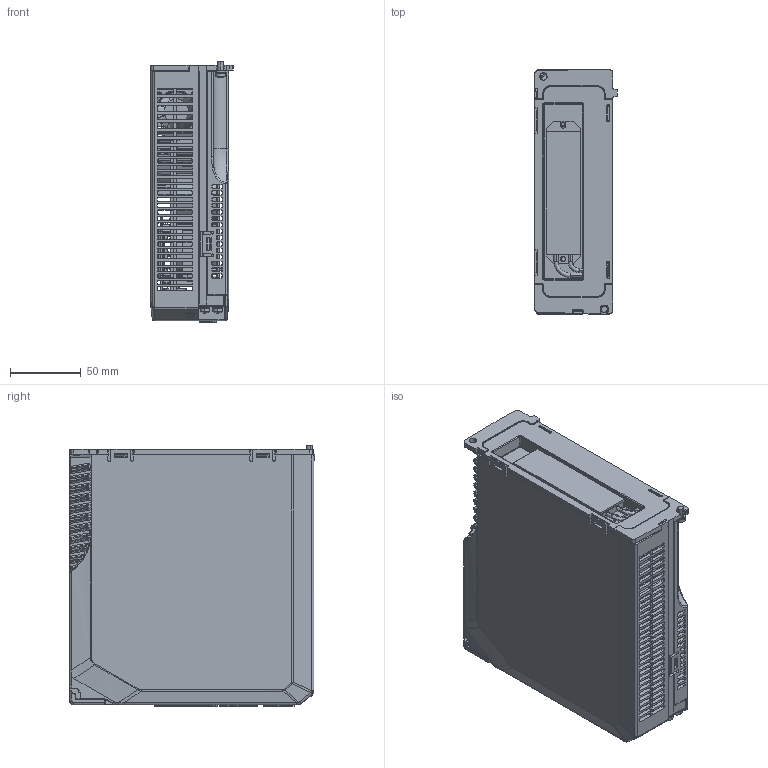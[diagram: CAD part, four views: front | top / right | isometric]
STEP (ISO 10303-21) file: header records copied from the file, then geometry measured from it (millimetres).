
FILE_DESCRIPTION (( 'STEP AP203' ), '1' );
FILE_NAME ('200VAC ,Rated power:750W~1KW CanOPEN.STEP', '2024-09-12T10:53:15', ( '' ), ( '' ), 'SwSTEP 2.0', 'SolidWorks 2022', '' );
FILE_SCHEMA (( 'CONFIG_CONTROL_DESIGN' ));
Products named in the file (1): 200VAC ，Rated power：750W~1KW CanOPEN
Bounding box: 58 x 172.83 x 183.3 mm (x, y, z)
Surface area: 273756.4 mm2 (no closed solid volume)
Topology: 0 solids, 2980 shells, 3017 faces, 18639 edges, 18548 vertices
Faces by surface type: plane 1562, cylinder 733, cone 370, bspline 344, torus 8
Entity records: 254501 total; most frequent: CARTESIAN_POINT 126817, DIRECTION 20929, ORIENTED_EDGE 18622, EDGE_CURVE 18585, VERTEX_POINT 18548, VECTOR 12399, LINE 12399, B_SPLINE_CURVE_WITH_KNOTS 4296
